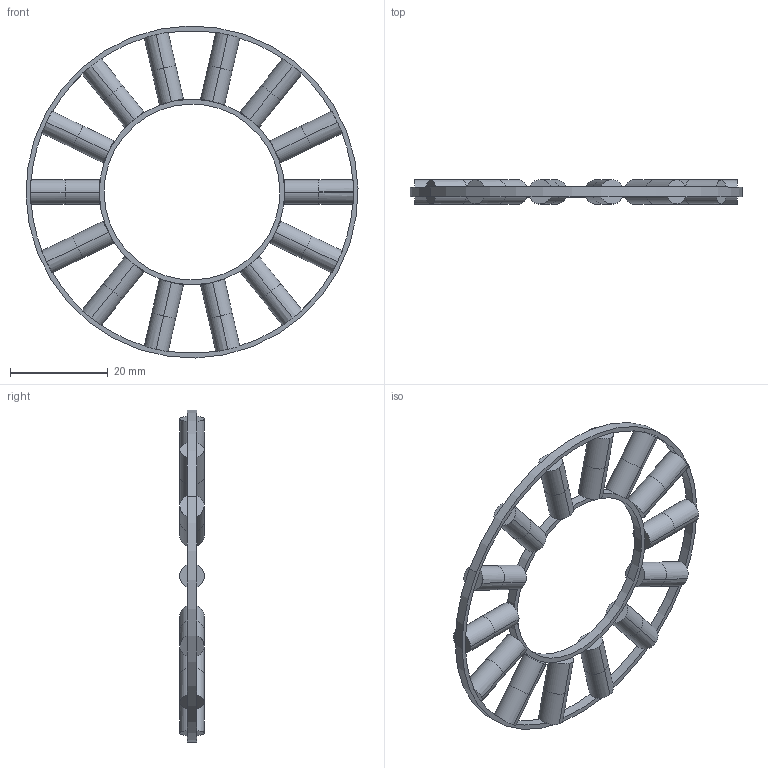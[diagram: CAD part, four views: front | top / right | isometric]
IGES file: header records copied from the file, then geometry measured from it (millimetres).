
Start section: START RECORD GO HERE.
Global section: file name: ROULEMENTS ROULEAUX.igs; native system: IBM CATIA IGES - CATIA Version 5 Release 18 ; preprocessor: CATIA Version 5 Release 18 ; author: Propriétaire; organization: FUJITSU-79916BB; date: 20090111.191655; units: millimetre
Bounding box: 67.98 x 5 x 67.98 mm (x, y, z)
Surface area: 5307.9 mm2 (no closed solid volume)
Topology: 0 solids, 0 shells, 122 faces, 652 edges, 652 vertices
Faces by surface type: revolution 76, plane 46
